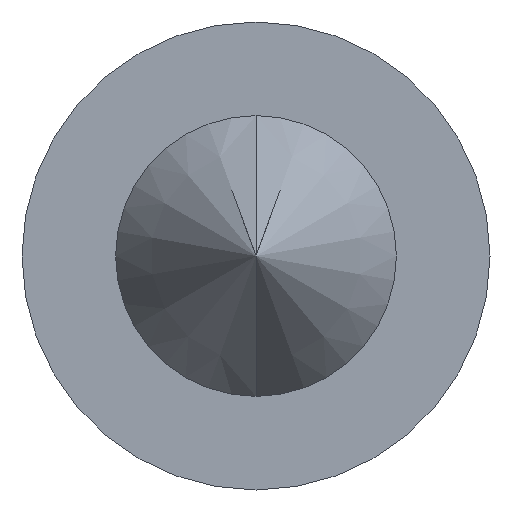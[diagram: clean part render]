
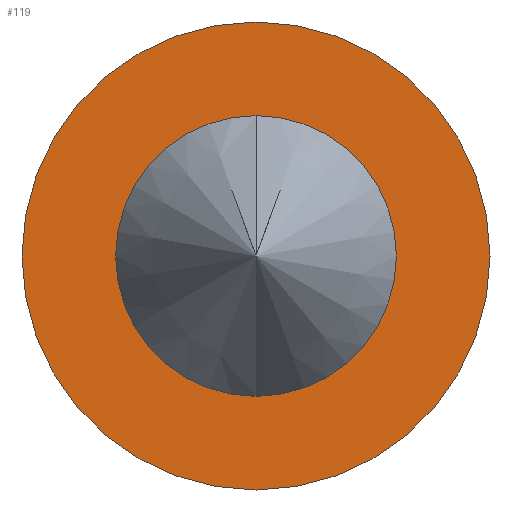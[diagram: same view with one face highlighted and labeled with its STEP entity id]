
A CAD part, front view. The second image highlights one B-rep face of the part: STEP entity #119.
In plain terms, the highlighted planar face has unit normal (0, -1, 0).
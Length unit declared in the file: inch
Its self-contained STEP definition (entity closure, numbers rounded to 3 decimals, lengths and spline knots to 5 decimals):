
#7 = CARTESIAN_POINT ( 'NONE',  ( 0., -0.25084, 0.12 ) ) ;
#18 = EDGE_CURVE ( 'NONE', #167, #288, #328, .T. ) ;
#24 = CARTESIAN_POINT ( 'NONE',  ( 0., -0.25084, -0.12 ) ) ;
#25 = CARTESIAN_POINT ( 'NONE',  ( 0., -0.25084, -0.12 ) ) ;
#26 = DIRECTION ( 'NONE',  ( 0., -1., 0. ) ) ;
#28 = EDGE_CURVE ( 'NONE', #117, #202, #257, .T. ) ;
#39 = CARTESIAN_POINT ( 'NONE',  ( 0., -0.25084, 0.2 ) ) ;
#41 = ORIENTED_EDGE ( 'NONE', *, *, #18, .T. ) ;
#44 = EDGE_LOOP ( 'NONE', ( #281, #113 ) ) ;
#59 = CIRCLE ( 'NONE', #222, 0.12 ) ;
#75 = AXIS2_PLACEMENT_3D ( 'NONE', #290, #78, #291 ) ;
#78 = DIRECTION ( 'NONE',  ( 0., -1., 0. ) ) ;
#96 = FACE_OUTER_BOUND ( 'NONE', #199, .T. ) ;
#113 = ORIENTED_EDGE ( 'NONE', *, *, #375, .F. ) ;
#116 = DIRECTION ( 'NONE',  ( 0., 0., -1. ) ) ;
#117 = VERTEX_POINT ( 'NONE', #24 ) ;
#119 = ADVANCED_FACE ( 'NONE', ( #96, #215 ), #332, .T. ) ;
#133 = AXIS2_PLACEMENT_3D ( 'NONE', #209, #176, #234 ) ;
#159 = ORIENTED_EDGE ( 'NONE', *, *, #323, .T. ) ;
#167 = VERTEX_POINT ( 'NONE', #268 ) ;
#169 = CARTESIAN_POINT ( 'NONE',  ( 0., -0.25084, 0. ) ) ;
#176 = DIRECTION ( 'NONE',  ( 0., -1., 0. ) ) ;
#181 = DIRECTION ( 'NONE',  ( 0., 0., -1. ) ) ;
#199 = EDGE_LOOP ( 'NONE', ( #41, #159 ) ) ;
#202 = VERTEX_POINT ( 'NONE', #7 ) ;
#209 = CARTESIAN_POINT ( 'NONE',  ( 0., -0.25084, 0. ) ) ;
#213 = AXIS2_PLACEMENT_3D ( 'NONE', #282, #279, #116 ) ;
#215 = FACE_BOUND ( 'NONE', #44, .T. ) ;
#222 = AXIS2_PLACEMENT_3D ( 'NONE', #169, #233, #352 ) ;
#233 = DIRECTION ( 'NONE',  ( 0., -1., 0. ) ) ;
#234 = DIRECTION ( 'NONE',  ( 0., 0., -1. ) ) ;
#257 = CIRCLE ( 'NONE', #133, 0.12 ) ;
#268 = CARTESIAN_POINT ( 'NONE',  ( 0., -0.25084, -0.2 ) ) ;
#279 = DIRECTION ( 'NONE',  ( 0., -1., 0. ) ) ;
#281 = ORIENTED_EDGE ( 'NONE', *, *, #28, .F. ) ;
#282 = CARTESIAN_POINT ( 'NONE',  ( 0., -0.25084, 0. ) ) ;
#288 = VERTEX_POINT ( 'NONE', #39 ) ;
#290 = CARTESIAN_POINT ( 'NONE',  ( 0., -0.25084, 0. ) ) ;
#291 = DIRECTION ( 'NONE',  ( 0., 0., -1. ) ) ;
#305 = CIRCLE ( 'NONE', #213, 0.2 ) ;
#323 = EDGE_CURVE ( 'NONE', #288, #167, #305, .T. ) ;
#328 = CIRCLE ( 'NONE', #75, 0.2 ) ;
#332 = PLANE ( 'NONE',  #371 ) ;
#352 = DIRECTION ( 'NONE',  ( 0., 0., -1. ) ) ;
#371 = AXIS2_PLACEMENT_3D ( 'NONE', #25, #26, #181 ) ;
#375 = EDGE_CURVE ( 'NONE', #202, #117, #59, .T. ) ;
